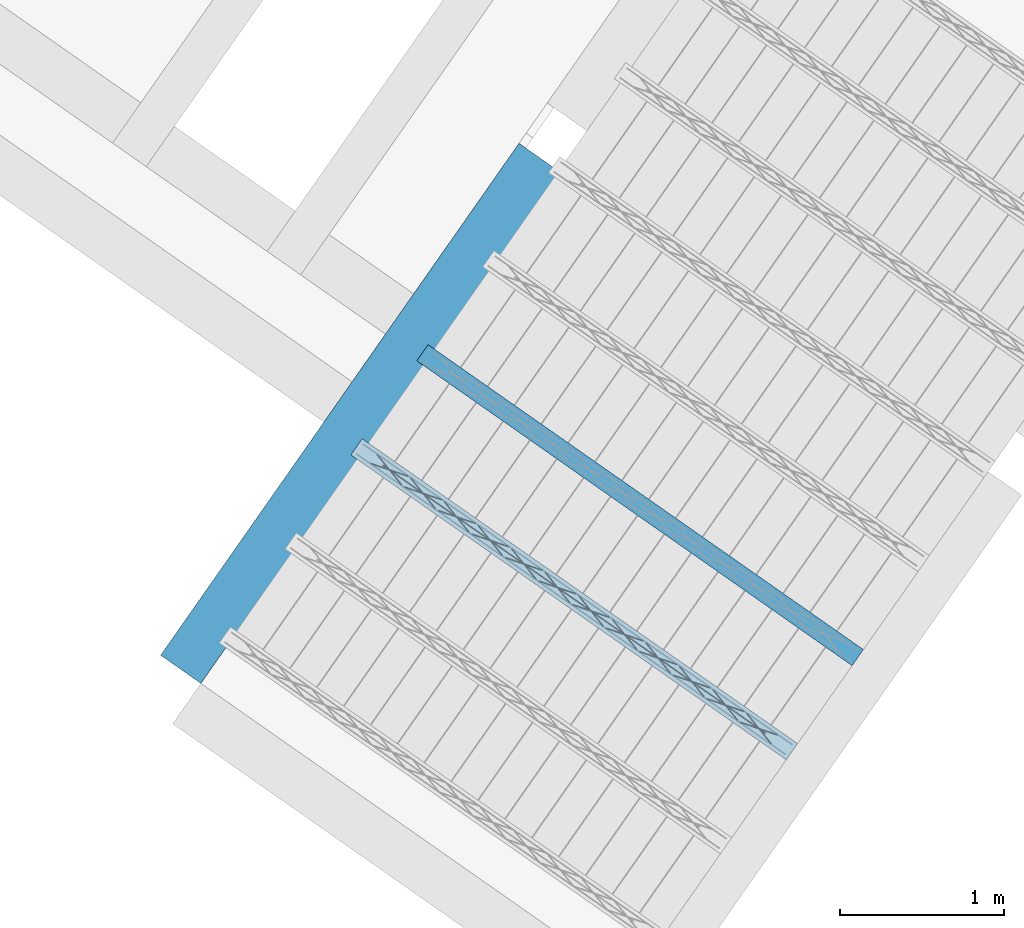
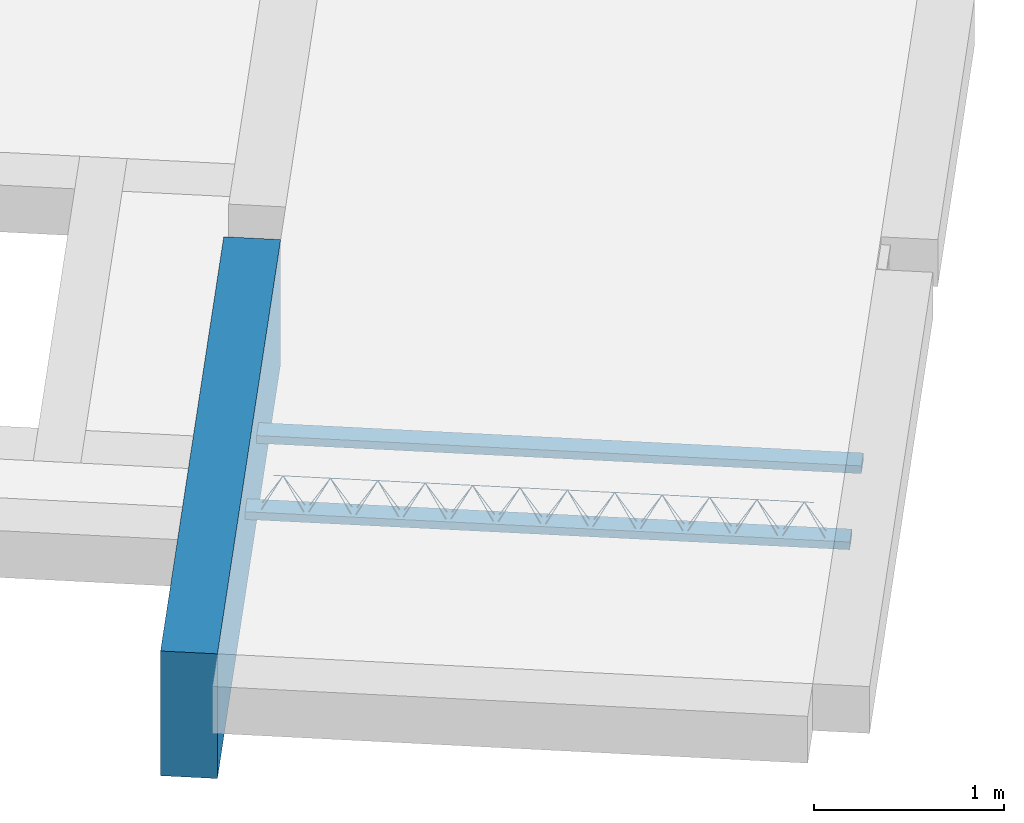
# One storey, part 6 of 46: 3 beams.
"""IFC2X3 building model written with IfcOpenShell, lengths in metres."""

from ifc_helpers import new_model, entity, si_unit, converted_unit, derived_unit, direction, frame, frame_2d, origin, origin_2d_with_axis, place, context, subcontext, project, spatial, rectangle, circle, extrude, material, type_object, element, save


model = new_model("IFC2X3")

# Units and contexts
model_context = context("Model", 3, precision=1e-05, world=origin(), true_north=direction((6.123031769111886e-17, 1.0)))
body_context = subcontext(model_context, "Body", "Model", "MODEL_VIEW")
ifc_project = project(units=[si_unit("LENGTHUNIT", "METRE"), si_unit("AREAUNIT", "SQUARE_METRE"), si_unit("VOLUMEUNIT", "CUBIC_METRE"), converted_unit("PLANEANGLEUNIT", "DEGREE", entity("IfcPlaneAngleMeasure", 0.017453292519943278), si_unit("PLANEANGLEUNIT", "RADIAN"), dimensions=[0, 0, 0, 0, 0, 0, 0]), si_unit("MASSUNIT", "GRAM", prefix="KILO"), derived_unit("MASSDENSITYUNIT", [(si_unit("MASSUNIT", "GRAM", prefix="KILO"), 1), (si_unit("LENGTHUNIT", "METRE"), -3)]), derived_unit("IONCONCENTRATIONUNIT", [(si_unit("MASSUNIT", "GRAM", prefix="KILO"), 1), (si_unit("LENGTHUNIT", "METRE"), -3)]), derived_unit("MOMENTOFINERTIAUNIT", [(si_unit("LENGTHUNIT", "METRE"), 4)]), si_unit("TIMEUNIT", "SECOND"), si_unit("FREQUENCYUNIT", "HERTZ"), si_unit("THERMODYNAMICTEMPERATUREUNIT", "DEGREE_CELSIUS"), derived_unit("THERMALTRANSMITTANCEUNIT", [(si_unit("MASSUNIT", "GRAM", prefix="KILO"), 1), (si_unit("THERMODYNAMICTEMPERATUREUNIT", "KELVIN"), -1), (si_unit("TIMEUNIT", "SECOND"), -3)]), derived_unit("THERMALCONDUCTANCEUNIT", [(si_unit("MASSUNIT", "GRAM", prefix="KILO"), 1), (si_unit("THERMODYNAMICTEMPERATUREUNIT", "KELVIN"), -1), (si_unit("TIMEUNIT", "SECOND"), -3), (si_unit("LENGTHUNIT", "METRE"), 1)]), derived_unit("VOLUMETRICFLOWRATEUNIT", [(si_unit("LENGTHUNIT", "METRE", prefix="DECI"), 3), (si_unit("TIMEUNIT", "SECOND"), -1)]), derived_unit("MASSFLOWRATEUNIT", [(si_unit("MASSUNIT", "GRAM", prefix="KILO"), 1), (si_unit("TIMEUNIT", "SECOND"), -1)]), derived_unit("ROTATIONALFREQUENCYUNIT", [(si_unit("TIMEUNIT", "SECOND"), -1)]), si_unit("ELECTRICCURRENTUNIT", "AMPERE"), si_unit("ELECTRICVOLTAGEUNIT", "VOLT"), si_unit("POWERUNIT", "WATT"), si_unit("FORCEUNIT", "NEWTON", prefix="KILO"), si_unit("ILLUMINANCEUNIT", "LUX"), si_unit("LUMINOUSFLUXUNIT", "LUMEN"), si_unit("LUMINOUSINTENSITYUNIT", "CANDELA"), si_unit("ENERGYUNIT", "JOULE"), derived_unit("USERDEFINED", [(si_unit("MASSUNIT", "GRAM", prefix="KILO"), -1), (si_unit("LENGTHUNIT", "METRE"), -2), (si_unit("TIMEUNIT", "SECOND"), 3), (si_unit("LUMINOUSFLUXUNIT", "LUMEN"), 1)]), derived_unit("USERDEFINED", [(si_unit("MASSUNIT", "GRAM", prefix="KILO"), 1), (si_unit("TIMEUNIT", "SECOND"), -3), (si_unit("LENGTHUNIT", "METRE"), 3), (si_unit("ELECTRICCURRENTUNIT", "AMPERE"), -2)]), derived_unit("SOUNDPOWERUNIT", [(si_unit("MASSUNIT", "GRAM", prefix="KILO"), 1), (si_unit("TIMEUNIT", "SECOND"), -3), (si_unit("LENGTHUNIT", "METRE"), 2)]), derived_unit("SOUNDPRESSUREUNIT", [(si_unit("MASSUNIT", "GRAM", prefix="KILO"), 1), (si_unit("LENGTHUNIT", "METRE"), -1), (si_unit("TIMEUNIT", "SECOND"), -2)]), derived_unit("LINEARVELOCITYUNIT", [(si_unit("LENGTHUNIT", "METRE"), 1), (si_unit("TIMEUNIT", "SECOND"), -1)]), si_unit("PRESSUREUNIT", "PASCAL"), derived_unit("USERDEFINED", [(si_unit("MASSUNIT", "GRAM", prefix="KILO"), 1), (si_unit("LENGTHUNIT", "METRE"), -2), (si_unit("TIMEUNIT", "SECOND"), -2)]), derived_unit("LINEARFORCEUNIT", [(si_unit("MASSUNIT", "GRAM", prefix="KILO"), 1), (si_unit("TIMEUNIT", "SECOND"), -2)]), derived_unit("PLANARFORCEUNIT", [(si_unit("MASSUNIT", "GRAM", prefix="KILO"), 1), (si_unit("LENGTHUNIT", "METRE"), -1), (si_unit("TIMEUNIT", "SECOND"), -2)]), derived_unit("SPECIFICHEATCAPACITYUNIT", [(si_unit("THERMODYNAMICTEMPERATUREUNIT", "KELVIN"), -1), (si_unit("LENGTHUNIT", "METRE"), 2), (si_unit("TIMEUNIT", "SECOND"), -2)]), derived_unit("HEATFLUXDENSITYUNIT", [(si_unit("MASSUNIT", "GRAM", prefix="KILO"), 1), (si_unit("TIMEUNIT", "SECOND"), -3)]), derived_unit("HEATINGVALUEUNIT", [(si_unit("LENGTHUNIT", "METRE"), 2), (si_unit("TIMEUNIT", "SECOND"), -2)]), derived_unit("VAPORPERMEABILITYUNIT", [(si_unit("LENGTHUNIT", "METRE"), -1), (si_unit("TIMEUNIT", "SECOND"), 1)]), derived_unit("DYNAMICVISCOSITYUNIT", [(si_unit("MASSUNIT", "GRAM", prefix="KILO"), 1), (si_unit("TIMEUNIT", "SECOND"), -1), (si_unit("LENGTHUNIT", "METRE"), -1)]), derived_unit("THERMALEXPANSIONCOEFFICIENTUNIT", [(si_unit("THERMODYNAMICTEMPERATUREUNIT", "KELVIN"), -1)]), derived_unit("MODULUSOFELASTICITYUNIT", [(si_unit("MASSUNIT", "GRAM", prefix="KILO"), 1), (si_unit("LENGTHUNIT", "METRE"), -1), (si_unit("TIMEUNIT", "SECOND"), -2)]), derived_unit("ISOTHERMALMOISTURECAPACITYUNIT", [(si_unit("MASSUNIT", "GRAM", prefix="KILO"), -1), (si_unit("LENGTHUNIT", "METRE"), 3)]), derived_unit("MOISTUREDIFFUSIVITYUNIT", [(si_unit("TIMEUNIT", "SECOND"), -1), (si_unit("LENGTHUNIT", "METRE"), 2)]), derived_unit("MASSPERLENGTHUNIT", [(si_unit("MASSUNIT", "GRAM", prefix="KILO"), 1), (si_unit("LENGTHUNIT", "METRE"), -1)]), derived_unit("THERMALRESISTANCEUNIT", [(si_unit("MASSUNIT", "GRAM", prefix="KILO"), -1), (si_unit("TIMEUNIT", "SECOND"), 3), (si_unit("THERMODYNAMICTEMPERATUREUNIT", "KELVIN"), 1)]), derived_unit("ACCELERATIONUNIT", [(si_unit("LENGTHUNIT", "METRE"), 1), (si_unit("TIMEUNIT", "SECOND"), -2)]), derived_unit("ANGULARVELOCITYUNIT", [(si_unit("TIMEUNIT", "SECOND"), -1), (si_unit("PLANEANGLEUNIT", "RADIAN"), 1)]), derived_unit("LINEARSTIFFNESSUNIT", [(si_unit("MASSUNIT", "GRAM", prefix="KILO"), 1), (si_unit("TIMEUNIT", "SECOND"), -2)]), derived_unit("WARPINGCONSTANTUNIT", [(si_unit("LENGTHUNIT", "METRE"), 6)]), derived_unit("LINEARMOMENTUNIT", [(si_unit("MASSUNIT", "GRAM", prefix="KILO"), 1), (si_unit("LENGTHUNIT", "METRE"), 1), (si_unit("TIMEUNIT", "SECOND"), -2)]), derived_unit("TORQUEUNIT", [(si_unit("MASSUNIT", "GRAM", prefix="KILO"), 1), (si_unit("LENGTHUNIT", "METRE"), 2), (si_unit("TIMEUNIT", "SECOND"), -2)])], contexts=[model_context])

# Site, building, storey
site_placement = place(None, origin())
site = spatial("IfcSite", under=ifc_project, at=site_placement, Name="Default", CompositionType="ELEMENT")
building_placement = place(site_placement, origin())
building = spatial("IfcBuilding", under=site, at=building_placement, CompositionType="ELEMENT")
storey_placement = place(building_placement, frame((0.0, 0.0, 99.52000000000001)))
storey = spatial("IfcBuildingStorey", under=building, at=storey_placement, Name="F1", CompositionType="ELEMENT", Elevation=99.52000000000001)

# Beams
beam_type = type_object("IfcBeamType", Name="Vigueta 3 (Paño 4) (Mf = 14.35)", PredefinedType="JOIST")
beam_1_placement = place(storey_placement, origin())
element("IfcBeam", 1, at=beam_1_placement, inside=storey, type_object=beam_type, Name="Vigueta 3 (Paño 4) (Mf = 14.35)", ObjectType="Mf = 14.35", context=body_context, shape_type="SweptSolid", body=[
    extrude(rectangle(XDim=3.240000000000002, YDim=0.1200000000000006, at=frame_2d((3.3306690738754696e-16, 6.106226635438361e-16), x_axis=(1.0, 0.0))), frame((6.585452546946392, -3.573180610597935, 0.2000000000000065), z_axis=(0.0, 0.0, 1.0), x_axis=(0.8191520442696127, -0.5735764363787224, 0.0)), (0.0, 0.0, 1.0), 0.0499999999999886),
    extrude(circle(Radius=0.0025, at=origin_2d_with_axis()), frame((5.257437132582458, -2.6872420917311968, 0.22500000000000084), z_axis=(0.8191520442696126, -0.5735764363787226, 0.0), x_axis=(-0.5735764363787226, -0.8191520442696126, 0.0)), (0.0, 0.0, 1.0), 3.191999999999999),
    extrude(circle(Radius=0.0025, at=origin_2d_with_axis()), frame((7.752744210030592, -4.390527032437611, 0.4500000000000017), z_axis=(-0.8191520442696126, 0.5735764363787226, 0.0), x_axis=(-0.5735764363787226, -0.8191520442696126, 0.0)), (0.0, 0.0, 1.0), 2.8499999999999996),
    extrude(circle(Radius=0.0025, at=origin_2d_with_axis()), frame((7.793531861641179, -4.463034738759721, 0.22500000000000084), z_axis=(-0.3145304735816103, 0.389334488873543, 0.8657304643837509), x_axis=(-0.7778747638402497, -0.6284193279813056, 0.0)), (0.0, 0.0, 1.0), 0.2598961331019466),
    extrude(circle(Radius=0.0025, at=origin_2d_with_axis()), frame((7.5887438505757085, -4.319640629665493, 0.22499999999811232), z_axis=(0.47343050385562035, -0.1624017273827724, 0.8657304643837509), x_axis=(-0.3244721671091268, -0.9458952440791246, 0.0)), (0.0, 0.0, 1.0), 0.25989613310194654),
    extrude(circle(Radius=0.0025, at=origin_2d_with_axis()), frame((7.588743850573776, -4.319640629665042, 0.22500000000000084), z_axis=(-0.3145304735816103, 0.389334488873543, 0.8657304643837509), x_axis=(-0.7778747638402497, -0.6284193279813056, 0.0)), (0.0, 0.0, 1.0), 0.2598961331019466),
    extrude(circle(Radius=0.0025, at=origin_2d_with_axis()), frame((7.383955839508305, -4.176246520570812, 0.22499999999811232), z_axis=(0.47343050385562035, -0.1624017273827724, 0.8657304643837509), x_axis=(-0.3244721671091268, -0.9458952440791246, 0.0)), (0.0, 0.0, 1.0), 0.25989613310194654),
    extrude(circle(Radius=0.0025, at=origin_2d_with_axis()), frame((7.383955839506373, -4.17624652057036, 0.22500000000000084), z_axis=(-0.3145304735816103, 0.389334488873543, 0.8657304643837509), x_axis=(-0.7778747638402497, -0.6284193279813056, 0.0)), (0.0, 0.0, 1.0), 0.2598961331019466),
    extrude(circle(Radius=0.0025, at=origin_2d_with_axis()), frame((7.179167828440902, -4.0328524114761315, 0.22499999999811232), z_axis=(0.47343050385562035, -0.1624017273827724, 0.8657304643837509), x_axis=(-0.3244721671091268, -0.9458952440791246, 0.0)), (0.0, 0.0, 1.0), 0.25989613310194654),
    extrude(circle(Radius=0.0025, at=origin_2d_with_axis()), frame((7.179167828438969, -4.032852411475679, 0.22500000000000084), z_axis=(-0.3145304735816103, 0.389334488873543, 0.8657304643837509), x_axis=(-0.7778747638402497, -0.6284193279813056, 0.0)), (0.0, 0.0, 1.0), 0.2598961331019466),
    extrude(circle(Radius=0.0025, at=origin_2d_with_axis()), frame((6.9743798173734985, -3.889458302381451, 0.22499999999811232), z_axis=(0.47343050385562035, -0.1624017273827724, 0.8657304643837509), x_axis=(-0.3244721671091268, -0.9458952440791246, 0.0)), (0.0, 0.0, 1.0), 0.25989613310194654),
    extrude(circle(Radius=0.0025, at=origin_2d_with_axis()), frame((6.974379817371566, -3.8894583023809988, 0.22500000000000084), z_axis=(-0.3145304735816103, 0.389334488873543, 0.8657304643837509), x_axis=(-0.7778747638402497, -0.6284193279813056, 0.0)), (0.0, 0.0, 1.0), 0.2598961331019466),
    extrude(circle(Radius=0.0025, at=origin_2d_with_axis()), frame((6.769591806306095, -3.74606419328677, 0.22499999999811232), z_axis=(0.47343050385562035, -0.1624017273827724, 0.8657304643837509), x_axis=(-0.3244721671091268, -0.9458952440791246, 0.0)), (0.0, 0.0, 1.0), 0.25989613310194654),
    extrude(circle(Radius=0.0025, at=origin_2d_with_axis()), frame((6.769591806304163, -3.7460641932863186, 0.22500000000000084), z_axis=(-0.3145304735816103, 0.389334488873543, 0.8657304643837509), x_axis=(-0.7778747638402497, -0.6284193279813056, 0.0)), (0.0, 0.0, 1.0), 0.2598961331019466),
    extrude(circle(Radius=0.0025, at=origin_2d_with_axis()), frame((6.564803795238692, -3.6026700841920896, 0.22499999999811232), z_axis=(0.47343050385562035, -0.1624017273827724, 0.8657304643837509), x_axis=(-0.3244721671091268, -0.9458952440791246, 0.0)), (0.0, 0.0, 1.0), 0.25989613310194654),
    extrude(circle(Radius=0.0025, at=origin_2d_with_axis()), frame((6.56480379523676, -3.6026700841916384, 0.22500000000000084), z_axis=(-0.3145304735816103, 0.389334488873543, 0.8657304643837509), x_axis=(-0.7778747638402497, -0.6284193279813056, 0.0)), (0.0, 0.0, 1.0), 0.2598961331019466),
    extrude(circle(Radius=0.0025, at=origin_2d_with_axis()), frame((6.360015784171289, -3.459275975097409, 0.22499999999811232), z_axis=(0.47343050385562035, -0.1624017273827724, 0.8657304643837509), x_axis=(-0.3244721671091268, -0.9458952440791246, 0.0)), (0.0, 0.0, 1.0), 0.25989613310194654),
    extrude(circle(Radius=0.0025, at=origin_2d_with_axis()), frame((6.360015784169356, -3.4592759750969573, 0.22500000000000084), z_axis=(-0.3145304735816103, 0.389334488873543, 0.8657304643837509), x_axis=(-0.7778747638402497, -0.6284193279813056, 0.0)), (0.0, 0.0, 1.0), 0.2598961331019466),
    extrude(circle(Radius=0.0025, at=origin_2d_with_axis()), frame((6.155227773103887, -3.315881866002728, 0.22499999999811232), z_axis=(0.47343050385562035, -0.1624017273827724, 0.8657304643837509), x_axis=(-0.3244721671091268, -0.9458952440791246, 0.0)), (0.0, 0.0, 1.0), 0.25989613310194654),
    extrude(circle(Radius=0.0025, at=origin_2d_with_axis()), frame((6.155227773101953, -3.3158818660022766, 0.22500000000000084), z_axis=(-0.3145304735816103, 0.389334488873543, 0.8657304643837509), x_axis=(-0.7778747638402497, -0.6284193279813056, 0.0)), (0.0, 0.0, 1.0), 0.2598961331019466),
    extrude(circle(Radius=0.0025, at=origin_2d_with_axis()), frame((5.950439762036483, -3.1724877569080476, 0.22499999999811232), z_axis=(0.47343050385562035, -0.1624017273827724, 0.8657304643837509), x_axis=(-0.3244721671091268, -0.9458952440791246, 0.0)), (0.0, 0.0, 1.0), 0.25989613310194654),
    extrude(circle(Radius=0.0025, at=origin_2d_with_axis()), frame((5.95043976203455, -3.172487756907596, 0.22500000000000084), z_axis=(-0.3145304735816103, 0.389334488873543, 0.8657304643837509), x_axis=(-0.7778747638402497, -0.6284193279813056, 0.0)), (0.0, 0.0, 1.0), 0.2598961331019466),
    extrude(circle(Radius=0.0025, at=origin_2d_with_axis()), frame((5.745651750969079, -3.0290936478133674, 0.22499999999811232), z_axis=(0.47343050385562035, -0.1624017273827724, 0.8657304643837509), x_axis=(-0.3244721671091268, -0.9458952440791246, 0.0)), (0.0, 0.0, 1.0), 0.25989613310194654),
    extrude(circle(Radius=0.0025, at=origin_2d_with_axis()), frame((5.745651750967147, -3.0290936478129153, 0.22500000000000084), z_axis=(-0.3145304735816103, 0.389334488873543, 0.8657304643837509), x_axis=(-0.7778747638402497, -0.6284193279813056, 0.0)), (0.0, 0.0, 1.0), 0.2598961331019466),
    extrude(circle(Radius=0.0025, at=origin_2d_with_axis()), frame((5.540863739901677, -2.8856995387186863, 0.22499999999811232), z_axis=(0.47343050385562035, -0.1624017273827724, 0.8657304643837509), x_axis=(-0.3244721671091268, -0.9458952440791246, 0.0)), (0.0, 0.0, 1.0), 0.25989613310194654),
    extrude(circle(Radius=0.0025, at=origin_2d_with_axis()), frame((5.540863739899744, -2.8856995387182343, 0.22500000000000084), z_axis=(-0.3145304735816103, 0.389334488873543, 0.8657304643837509), x_axis=(-0.7778747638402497, -0.6284193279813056, 0.0)), (0.0, 0.0, 1.0), 0.2598961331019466),
    extrude(circle(Radius=0.0025, at=origin_2d_with_axis()), frame((5.336075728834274, -2.7423054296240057, 0.22499999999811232), z_axis=(0.47343050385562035, -0.1624017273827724, 0.8657304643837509), x_axis=(-0.3244721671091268, -0.9458952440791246, 0.0)), (0.0, 0.0, 1.0), 0.25989613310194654),
    extrude(circle(Radius=0.0025, at=origin_2d_with_axis()), frame((5.298734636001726, -2.628263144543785, 0.22500000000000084), z_axis=(0.8191520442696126, -0.5735764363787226, 0.0), x_axis=(-0.5735764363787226, -0.8191520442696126, 0.0)), (0.0, 0.0, 1.0), 3.191999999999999),
    extrude(circle(Radius=0.0025, at=origin_2d_with_axis()), frame((7.834829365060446, -4.4040557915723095, 0.22500000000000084), z_axis=(-0.47343050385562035, 0.1624017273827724, 0.8657304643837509), x_axis=(-0.3244721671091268, -0.9458952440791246, 0.0)), (0.0, 0.0, 1.0), 0.25989613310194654),
    extrude(circle(Radius=0.0025, at=origin_2d_with_axis()), frame((7.630041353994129, -4.260661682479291, 0.22499999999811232), z_axis=(0.3145304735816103, -0.389334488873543, 0.8657304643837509), x_axis=(-0.7778747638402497, -0.6284193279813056, 0.0)), (0.0, 0.0, 1.0), 0.2598961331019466),
    extrude(circle(Radius=0.0025, at=origin_2d_with_axis()), frame((7.630041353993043, -4.26066168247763, 0.22500000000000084), z_axis=(-0.47343050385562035, 0.1624017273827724, 0.8657304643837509), x_axis=(-0.3244721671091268, -0.9458952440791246, 0.0)), (0.0, 0.0, 1.0), 0.25989613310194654),
    extrude(circle(Radius=0.0025, at=origin_2d_with_axis()), frame((7.425253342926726, -4.11726757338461, 0.22499999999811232), z_axis=(0.3145304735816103, -0.389334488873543, 0.8657304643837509), x_axis=(-0.7778747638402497, -0.6284193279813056, 0.0)), (0.0, 0.0, 1.0), 0.2598961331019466),
    extrude(circle(Radius=0.0025, at=origin_2d_with_axis()), frame((7.42525334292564, -4.117267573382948, 0.22500000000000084), z_axis=(-0.47343050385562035, 0.1624017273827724, 0.8657304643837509), x_axis=(-0.3244721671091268, -0.9458952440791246, 0.0)), (0.0, 0.0, 1.0), 0.25989613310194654),
    extrude(circle(Radius=0.0025, at=origin_2d_with_axis()), frame((7.220465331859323, -3.97387346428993, 0.22499999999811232), z_axis=(0.3145304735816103, -0.389334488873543, 0.8657304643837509), x_axis=(-0.7778747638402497, -0.6284193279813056, 0.0)), (0.0, 0.0, 1.0), 0.2598961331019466),
    extrude(circle(Radius=0.0025, at=origin_2d_with_axis()), frame((7.220465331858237, -3.9738734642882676, 0.22500000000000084), z_axis=(-0.47343050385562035, 0.1624017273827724, 0.8657304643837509), x_axis=(-0.3244721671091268, -0.9458952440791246, 0.0)), (0.0, 0.0, 1.0), 0.25989613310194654),
    extrude(circle(Radius=0.0025, at=origin_2d_with_axis()), frame((7.015677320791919, -3.830479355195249, 0.22499999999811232), z_axis=(0.3145304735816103, -0.389334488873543, 0.8657304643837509), x_axis=(-0.7778747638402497, -0.6284193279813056, 0.0)), (0.0, 0.0, 1.0), 0.2598961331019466),
    extrude(circle(Radius=0.0025, at=origin_2d_with_axis()), frame((7.015677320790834, -3.830479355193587, 0.22500000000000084), z_axis=(-0.47343050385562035, 0.1624017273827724, 0.8657304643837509), x_axis=(-0.3244721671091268, -0.9458952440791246, 0.0)), (0.0, 0.0, 1.0), 0.25989613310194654),
    extrude(circle(Radius=0.0025, at=origin_2d_with_axis()), frame((6.810889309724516, -3.687085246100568, 0.22499999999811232), z_axis=(0.3145304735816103, -0.389334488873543, 0.8657304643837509), x_axis=(-0.7778747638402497, -0.6284193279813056, 0.0)), (0.0, 0.0, 1.0), 0.2598961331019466),
    extrude(circle(Radius=0.0025, at=origin_2d_with_axis()), frame((6.81088930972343, -3.6870852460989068, 0.22500000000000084), z_axis=(-0.47343050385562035, 0.1624017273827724, 0.8657304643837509), x_axis=(-0.3244721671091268, -0.9458952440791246, 0.0)), (0.0, 0.0, 1.0), 0.25989613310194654),
    extrude(circle(Radius=0.0025, at=origin_2d_with_axis()), frame((6.606101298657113, -3.543691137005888, 0.22499999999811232), z_axis=(0.3145304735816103, -0.389334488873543, 0.8657304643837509), x_axis=(-0.7778747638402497, -0.6284193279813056, 0.0)), (0.0, 0.0, 1.0), 0.2598961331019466),
    extrude(circle(Radius=0.0025, at=origin_2d_with_axis()), frame((6.606101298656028, -3.543691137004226, 0.22500000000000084), z_axis=(-0.47343050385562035, 0.1624017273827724, 0.8657304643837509), x_axis=(-0.3244721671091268, -0.9458952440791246, 0.0)), (0.0, 0.0, 1.0), 0.25989613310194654),
    extrude(circle(Radius=0.0025, at=origin_2d_with_axis()), frame((6.40131328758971, -3.4002970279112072, 0.22499999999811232), z_axis=(0.3145304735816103, -0.389334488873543, 0.8657304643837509), x_axis=(-0.7778747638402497, -0.6284193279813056, 0.0)), (0.0, 0.0, 1.0), 0.2598961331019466),
    extrude(circle(Radius=0.0025, at=origin_2d_with_axis()), frame((6.401313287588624, -3.4002970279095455, 0.22500000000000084), z_axis=(-0.47343050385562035, 0.1624017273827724, 0.8657304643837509), x_axis=(-0.3244721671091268, -0.9458952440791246, 0.0)), (0.0, 0.0, 1.0), 0.25989613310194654),
    extrude(circle(Radius=0.0025, at=origin_2d_with_axis()), frame((6.196525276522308, -3.256902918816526, 0.22499999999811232), z_axis=(0.3145304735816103, -0.389334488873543, 0.8657304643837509), x_axis=(-0.7778747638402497, -0.6284193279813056, 0.0)), (0.0, 0.0, 1.0), 0.2598961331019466),
    extrude(circle(Radius=0.0025, at=origin_2d_with_axis()), frame((6.196525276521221, -3.2569029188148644, 0.22500000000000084), z_axis=(-0.47343050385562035, 0.1624017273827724, 0.8657304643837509), x_axis=(-0.3244721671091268, -0.9458952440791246, 0.0)), (0.0, 0.0, 1.0), 0.25989613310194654),
    extrude(circle(Radius=0.0025, at=origin_2d_with_axis()), frame((5.991737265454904, -3.113508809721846, 0.22499999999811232), z_axis=(0.3145304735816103, -0.389334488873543, 0.8657304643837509), x_axis=(-0.7778747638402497, -0.6284193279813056, 0.0)), (0.0, 0.0, 1.0), 0.2598961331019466),
    extrude(circle(Radius=0.0025, at=origin_2d_with_axis()), frame((5.991737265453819, -3.113508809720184, 0.22500000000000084), z_axis=(-0.47343050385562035, 0.1624017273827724, 0.8657304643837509), x_axis=(-0.3244721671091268, -0.9458952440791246, 0.0)), (0.0, 0.0, 1.0), 0.25989613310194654),
    extrude(circle(Radius=0.0025, at=origin_2d_with_axis()), frame((5.7869492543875, -2.9701147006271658, 0.22499999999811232), z_axis=(0.3145304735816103, -0.389334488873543, 0.8657304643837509), x_axis=(-0.7778747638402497, -0.6284193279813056, 0.0)), (0.0, 0.0, 1.0), 0.2598961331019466),
    extrude(circle(Radius=0.0025, at=origin_2d_with_axis()), frame((5.786949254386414, -2.9701147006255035, 0.22500000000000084), z_axis=(-0.47343050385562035, 0.1624017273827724, 0.8657304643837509), x_axis=(-0.3244721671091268, -0.9458952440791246, 0.0)), (0.0, 0.0, 1.0), 0.25989613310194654),
    extrude(circle(Radius=0.0025, at=origin_2d_with_axis()), frame((5.5821612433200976, -2.8267205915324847, 0.22499999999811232), z_axis=(0.3145304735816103, -0.389334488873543, 0.8657304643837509), x_axis=(-0.7778747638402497, -0.6284193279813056, 0.0)), (0.0, 0.0, 1.0), 0.2598961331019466),
    extrude(circle(Radius=0.0025, at=origin_2d_with_axis()), frame((5.582161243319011, -2.8267205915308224, 0.22500000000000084), z_axis=(-0.47343050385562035, 0.1624017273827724, 0.8657304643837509), x_axis=(-0.3244721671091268, -0.9458952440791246, 0.0)), (0.0, 0.0, 1.0), 0.25989613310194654),
    extrude(circle(Radius=0.0025, at=origin_2d_with_axis()), frame((5.377373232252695, -2.683326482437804, 0.22499999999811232), z_axis=(0.3145304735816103, -0.389334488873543, 0.8657304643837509), x_axis=(-0.7778747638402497, -0.6284193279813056, 0.0)), (0.0, 0.0, 1.0), 0.2598961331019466),
])
ifc_material = material(Name="Hormigón armado")
beam_2_placement = place(storey_placement, origin())
element("IfcBeam", 2, at=beam_2_placement, inside=storey, material=ifc_material, Name="238286", context=body_context, shape_type="SweptSolid", body=[
    extrude(rectangle(XDim=0.04999999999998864, YDim=0.12, at=frame_2d((0.0, 4.2327252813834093e-16), x_axis=(1.0, 0.0))), frame((5.659929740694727, -2.070580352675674, 0.22500000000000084), z_axis=(0.8191520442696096, -0.5735764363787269, 0.0), x_axis=(0.0, 0.0, -1.0)), (0.0, 0.0, 1.0), 3.2400000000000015),
])
beam_3_placement = place(storey_placement, origin())
element("IfcBeam", 3, at=beam_3_placement, inside=storey, material=ifc_material, Name="Viga 7 (30x80)", ObjectType="30x80", context=body_context, shape_type="SweptSolid", body=[
    extrude(rectangle(XDim=0.7999999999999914, YDim=0.3000000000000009, at=origin_2d_with_axis()), frame((4.186517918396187, -4.000485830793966, 0.10000000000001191), z_axis=(0.5735764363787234, 0.8191520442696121, 0.0), x_axis=(0.0, 0.0, 1.0)), (0.0, 0.0, 1.0), 3.80996824),
])

save(model, "model.ifc")
